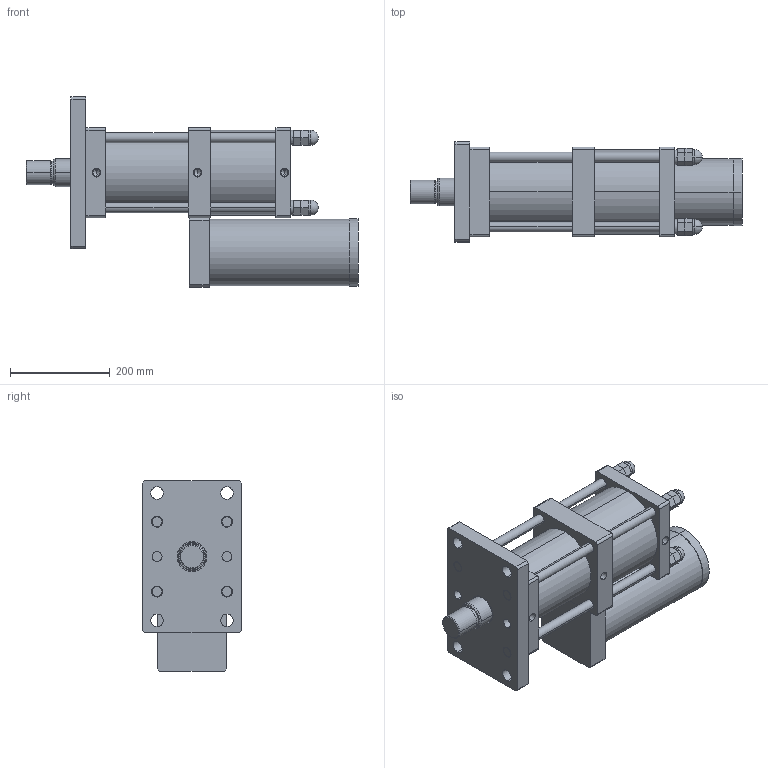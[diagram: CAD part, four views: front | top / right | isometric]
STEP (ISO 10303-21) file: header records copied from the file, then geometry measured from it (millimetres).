
FILE_DESCRIPTION (( 'STEP AP203' ), '1' );
FILE_NAME ('MPT-125-100-5-15T.STEP', '2016-03-12T00:55:13', ( 'WIN' ), ( '' ), 'SwSTEP 2.0', 'SolidWorks 2014', '' );
FILE_SCHEMA (( 'CONFIG_CONTROL_DESIGN' ));
Length unit declared in the file: millimetre
Products named in the file (1): MPT-125-100-5-15T
Bounding box: 665.5 x 200 x 382.5 mm (x, y, z)
Volume: 13220589 mm3; surface area: 1103006.5 mm2
Topology: 17 solids, 17 shells, 323 faces, 738 edges, 462 vertices
Faces by surface type: plane 155, cylinder 126, cone 30, sphere 8, torus 4
Entity records: 9043 total; most frequent: DIRECTION 1668, CARTESIAN_POINT 1492, ORIENTED_EDGE 1428, EDGE_CURVE 714, AXIS2_PLACEMENT_3D 630, VERTEX_POINT 454, VECTOR 408, LINE 408
